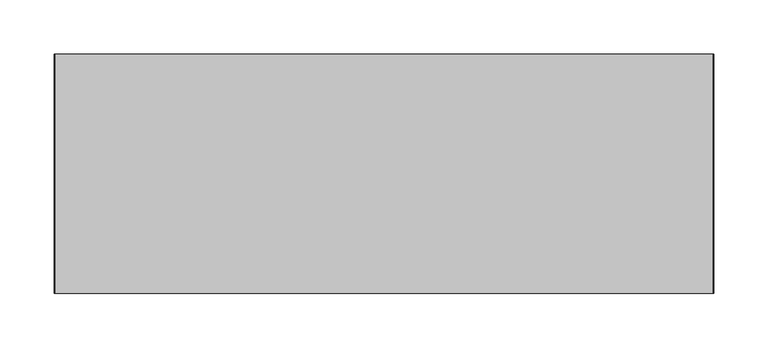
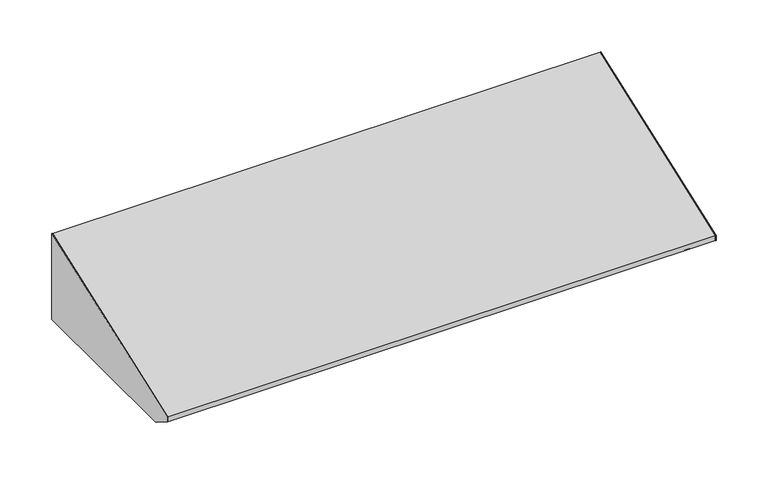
"""IFC4 building model written with IfcOpenShell, lengths in millimetres: furniture geometry, HermanMiller_Compass_TW406_Close-OutSlopedCabinetTop : 06D x 24W."""

from ifc_helpers import new_model, si_unit, frame, origin, place, context, project, spatial, polyline, outline, extrude, source, transform, mapped, element, save


def furniture_6843582d(model_context):
    return source(origin(), model_context, "Body", "SweptSolid", [
        extrude(outline(polyline([(-21.75256, 2222.0247351), (-21.75256, 2120.9), (-221.4493187, 2120.9), (-243.29136, 2134.7311416), (-243.29136, 2140.8533922), (-21.75256, 2222.0247351)])), frame((322.7439549, 0.0, 0.0), z_axis=(1.0, 0.0, 0.0), x_axis=(0.0, 1.0, 0.0)), (0.0, 0.0, 1.0), 0.79375),
        extrude(outline(polyline([(-21.75256, 2120.9), (-221.4493187, 2120.9), (-243.29136, 2134.7311416), (-243.29136, 2140.8533922), (-21.75256, 2222.0247351), (-21.75256, 2120.9)])), frame((-286.0622951, 0.0, 0.0), z_axis=(1.0, 0.0, 0.0), x_axis=(0.0, 1.0, 0.0)), (0.0, 0.0, 1.0), 0.79375),
        extrude(outline(polyline([(304.488502, -208.7493187), (304.488502, -97.8702473), (322.7439549, -97.8702473), (322.7439549, -208.7493187), (304.488502, -208.7493187)])), frame((0.0, 0.0, 2120.9), z_axis=(0.0, 0.0, 1.0), x_axis=(1.0, 0.0, 0.0)), (0.0, 0.0, 1.0), 0.79375),
        extrude(outline(polyline([(-21.75256, 2120.9), (-97.5295544, 2120.9), (-97.5295544, 2121.69375), (-22.54631, 2121.69375), (-22.54631, 2207.5150789), (-21.75256, 2207.5150789), (-21.75256, 2120.9)])), frame((312.1081836, 0.0, 0.0), z_axis=(1.0, 0.0, 0.0), x_axis=(0.0, 1.0, 0.0)), (0.0, 0.0, 1.0), 10.6357713),
        extrude(outline(polyline([(-21.75256, 2120.9), (-97.5295544, 2120.9), (-97.5295544, 2121.69375), (-22.54631, 2121.69375), (-22.54631, 2207.5150789), (-21.75256, 2207.5150789), (-21.75256, 2120.9)])), frame((-285.2685451, 0.0, 0.0), z_axis=(1.0, 0.0, 0.0), x_axis=(0.0, 1.0, 0.0)), (0.0, 0.0, 1.0), 10.6357713),
        extrude(outline(polyline([(-285.2685451, -208.7493187), (-285.2685451, -97.8702473), (-267.0130922, -97.8702473), (-267.0130922, -208.7493187), (-285.2685451, -208.7493187)])), frame((0.0, 0.0, 2120.9), z_axis=(0.0, 0.0, 1.0), x_axis=(1.0, 0.0, 0.0)), (0.0, 0.0, 1.0), 0.79375),
        extrude(outline(polyline([(-243.29136, 2140.8533922), (-21.75256, 2222.0247351), (-21.75256, 2207.5150789), (-22.54631, 2207.5150789), (-22.54631, 2220.8884809), (-242.49761, 2140.2989044), (-242.49761, 2135.1680199), (-221.2358067, 2121.69375), (-208.7493187, 2121.69375), (-208.7493187, 2120.9), (-221.4493187, 2120.9), (-243.29136, 2134.7311416), (-243.29136, 2140.8533922)])), frame((-285.2685451, 0.0, 0.0), z_axis=(1.0, 0.0, 0.0), x_axis=(0.0, 1.0, 0.0)), (0.0, 0.0, 1.0), 608.0125),
    ])


if __name__ == "__main__":
    model = new_model("IFC4")
    model_context = context("Model", 3, world=origin())
    ifc_project = project(units=[si_unit("LENGTHUNIT", "METRE", prefix="MILLI")], contexts=[model_context])
    site = spatial("IfcSite", under=ifc_project)
    building = spatial("IfcBuilding", under=site)
    placement = place(None, origin())
    furniture_shape = furniture_6843582d(model_context)
    element("IfcFurniture", 1, ObjectType="HermanMiller_Compass_TW406_Close-OutSlopedCabinetTop : 06D x 24W", at=placement, inside=building, context=model_context, shape_type="MappedRepresentation", body=[
        mapped(furniture_shape, transform((0.0, 0.0, 0.0), x_axis=(1.0, 0.0, 0.0), y_axis=(0.0, 1.0, 0.0), z_axis=(0.0, 0.0, 1.0))),
    ])
    save(model, "model.ifc")
